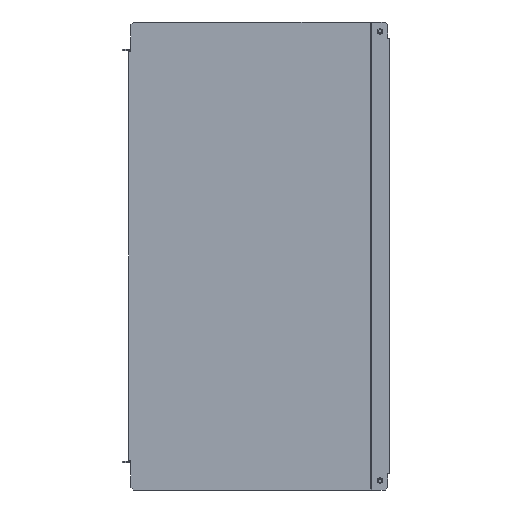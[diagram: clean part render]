
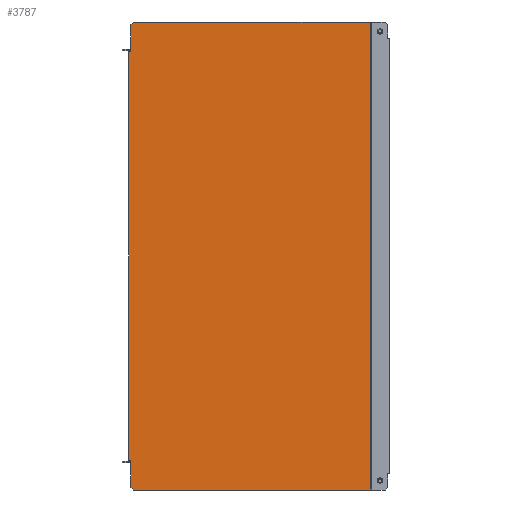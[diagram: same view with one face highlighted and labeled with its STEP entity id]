
A CAD part, front view. The second image highlights one B-rep face of the part: STEP entity #3787.
In plain terms, the highlighted planar face has unit normal (0, -1, 0).
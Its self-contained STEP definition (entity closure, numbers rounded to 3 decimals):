
#19 = ORIENTED_EDGE ( 'NONE', *, *, #1686, .F. ) ;
#52 = CARTESIAN_POINT ( 'NONE',  ( -285.5, 1.5, -285.5 ) ) ;
#92 = ORIENTED_EDGE ( 'NONE', *, *, #3213, .T. ) ;
#95 = EDGE_CURVE ( 'NONE', #1338, #1545, #3049, .T. ) ;
#96 = EDGE_CURVE ( 'NONE', #3440, #1887, #4071, .T. ) ;
#162 = DIRECTION ( 'NONE',  ( 1., 0., 0. ) ) ;
#188 = LINE ( 'NONE', #2399, #850 ) ;
#220 = EDGE_CURVE ( 'NONE', #2814, #3364, #1924, .T. ) ;
#238 = VECTOR ( 'NONE', #1070, 1000. ) ;
#262 = CARTESIAN_POINT ( 'NONE',  ( -20.511, 1.5, -273.5 ) ) ;
#276 = ORIENTED_EDGE ( 'NONE', *, *, #955, .T. ) ;
#278 = VECTOR ( 'NONE', #1701, 1000. ) ;
#300 = FACE_OUTER_BOUND ( 'NONE', #1011, .T. ) ;
#392 = CARTESIAN_POINT ( 'NONE',  ( -285.5, 1.5, 285.5 ) ) ;
#505 = LINE ( 'NONE', #1813, #3216 ) ;
#537 = PLANE ( 'NONE',  #1853 ) ;
#538 = EDGE_CURVE ( 'NONE', #3051, #1645, #2217, .T. ) ;
#603 = LINE ( 'NONE', #1221, #3029 ) ;
#636 = VERTEX_POINT ( 'NONE', #262 ) ;
#699 = ORIENTED_EDGE ( 'NONE', *, *, #2004, .T. ) ;
#726 = VERTEX_POINT ( 'NONE', #1358 ) ;
#745 = DIRECTION ( 'NONE',  ( 1., 0., 0. ) ) ;
#750 = VERTEX_POINT ( 'NONE', #2952 ) ;
#850 = VECTOR ( 'NONE', #3697, 1000. ) ;
#872 = CARTESIAN_POINT ( 'NONE',  ( -297.5, 1.5, -273.5 ) ) ;
#955 = EDGE_CURVE ( 'NONE', #636, #1887, #603, .T. ) ;
#1011 = EDGE_LOOP ( 'NONE', ( #1136, #92, #276, #3932, #2759, #1282, #2256, #2788, #1857, #3499, #19, #699, #1595, #1795 ) ) ;
#1070 = DIRECTION ( 'NONE',  ( 1., 0., 0. ) ) ;
#1122 = DIRECTION ( 'NONE',  ( 1., 0., 0. ) ) ;
#1132 = CARTESIAN_POINT ( 'NONE',  ( -297.5, 1.5, 273.5 ) ) ;
#1136 = ORIENTED_EDGE ( 'NONE', *, *, #95, .T. ) ;
#1171 = VECTOR ( 'NONE', #3128, 1000. ) ;
#1221 = CARTESIAN_POINT ( 'NONE',  ( -20.511, 1.5, 0. ) ) ;
#1233 = VECTOR ( 'NONE', #1122, 1000. ) ;
#1259 = CARTESIAN_POINT ( 'NONE',  ( -300.5, 1.5, 273.5 ) ) ;
#1282 = ORIENTED_EDGE ( 'NONE', *, *, #1926, .T. ) ;
#1296 = EDGE_CURVE ( 'NONE', #3440, #3972, #188, .T. ) ;
#1338 = VERTEX_POINT ( 'NONE', #872 ) ;
#1356 = DIRECTION ( 'NONE',  ( 0.707, 0., -0.707 ) ) ;
#1358 = CARTESIAN_POINT ( 'NONE',  ( -300.5, 1.5, 239. ) ) ;
#1414 = CARTESIAN_POINT ( 'NONE',  ( -303.3, 1.5, 239. ) ) ;
#1483 = CARTESIAN_POINT ( 'NONE',  ( -300.5, 1.5, -273.5 ) ) ;
#1543 = VECTOR ( 'NONE', #3027, 1000. ) ;
#1545 = VERTEX_POINT ( 'NONE', #3262 ) ;
#1549 = CARTESIAN_POINT ( 'NONE',  ( 0., 1.5, 0. ) ) ;
#1595 = ORIENTED_EDGE ( 'NONE', *, *, #220, .T. ) ;
#1645 = VERTEX_POINT ( 'NONE', #1414 ) ;
#1650 = VECTOR ( 'NONE', #1356, 1000. ) ;
#1686 = EDGE_CURVE ( 'NONE', #3596, #1762, #505, .T. ) ;
#1701 = DIRECTION ( 'NONE',  ( -0.707, 0., -0.707 ) ) ;
#1751 = LINE ( 'NONE', #3769, #3078 ) ;
#1762 = VERTEX_POINT ( 'NONE', #2498 ) ;
#1795 = ORIENTED_EDGE ( 'NONE', *, *, #2285, .T. ) ;
#1813 = CARTESIAN_POINT ( 'NONE',  ( 0., 1.5, -239. ) ) ;
#1853 = AXIS2_PLACEMENT_3D ( 'NONE', #1549, #2791, #2170 ) ;
#1857 = ORIENTED_EDGE ( 'NONE', *, *, #538, .T. ) ;
#1874 = CARTESIAN_POINT ( 'NONE',  ( -300.8, 1.5, 239. ) ) ;
#1887 = VERTEX_POINT ( 'NONE', #3599 ) ;
#1907 = CARTESIAN_POINT ( 'NONE',  ( -300.5, 1.5, 273.5 ) ) ;
#1924 = LINE ( 'NONE', #1259, #3653 ) ;
#1926 = EDGE_CURVE ( 'NONE', #3972, #750, #2346, .T. ) ;
#2004 = EDGE_CURVE ( 'NONE', #3596, #2814, #2684, .T. ) ;
#2098 = LINE ( 'NONE', #2750, #2804 ) ;
#2170 = DIRECTION ( 'NONE',  ( -1., 0., 0. ) ) ;
#2203 = LINE ( 'NONE', #2850, #1171 ) ;
#2217 = LINE ( 'NONE', #1874, #3726 ) ;
#2246 = DIRECTION ( 'NONE',  ( 0., 0., -1. ) ) ;
#2256 = ORIENTED_EDGE ( 'NONE', *, *, #3819, .T. ) ;
#2257 = DIRECTION ( 'NONE',  ( -1., 0., 0. ) ) ;
#2285 = EDGE_CURVE ( 'NONE', #3364, #1338, #2637, .T. ) ;
#2346 = LINE ( 'NONE', #392, #278 ) ;
#2399 = CARTESIAN_POINT ( 'NONE',  ( 0., 1.5, 273.5 ) ) ;
#2411 = CARTESIAN_POINT ( 'NONE',  ( -300.8, 1.5, -239. ) ) ;
#2443 = CARTESIAN_POINT ( 'NONE',  ( 0., 1.5, 273.5 ) ) ;
#2498 = CARTESIAN_POINT ( 'NONE',  ( -303.3, 1.5, -239. ) ) ;
#2525 = DIRECTION ( 'NONE',  ( 0., 0., -1. ) ) ;
#2614 = CARTESIAN_POINT ( 'NONE',  ( -300.8, 1.5, -239. ) ) ;
#2637 = LINE ( 'NONE', #52, #1650 ) ;
#2684 = LINE ( 'NONE', #2411, #1233 ) ;
#2750 = CARTESIAN_POINT ( 'NONE',  ( -300.8, 1.5, 239. ) ) ;
#2759 = ORIENTED_EDGE ( 'NONE', *, *, #1296, .T. ) ;
#2788 = ORIENTED_EDGE ( 'NONE', *, *, #4078, .F. ) ;
#2791 = DIRECTION ( 'NONE',  ( 0., -1., 0. ) ) ;
#2804 = VECTOR ( 'NONE', #745, 1000. ) ;
#2814 = VERTEX_POINT ( 'NONE', #3390 ) ;
#2837 = LINE ( 'NONE', #1907, #3215 ) ;
#2850 = CARTESIAN_POINT ( 'NONE',  ( -303.3, 1.5, 0. ) ) ;
#2952 = CARTESIAN_POINT ( 'NONE',  ( -300.5, 1.5, 270.5 ) ) ;
#3027 = DIRECTION ( 'NONE',  ( 1., 0., 0. ) ) ;
#3029 = VECTOR ( 'NONE', #4180, 1000. ) ;
#3049 = LINE ( 'NONE', #1483, #1543 ) ;
#3051 = VERTEX_POINT ( 'NONE', #4211 ) ;
#3078 = VECTOR ( 'NONE', #162, 1000. ) ;
#3105 = DIRECTION ( 'NONE',  ( -1., 0., 0. ) ) ;
#3128 = DIRECTION ( 'NONE',  ( 0., 0., 1. ) ) ;
#3213 = EDGE_CURVE ( 'NONE', #1545, #636, #1751, .T. ) ;
#3215 = VECTOR ( 'NONE', #2525, 1000. ) ;
#3216 = VECTOR ( 'NONE', #3105, 1000. ) ;
#3262 = CARTESIAN_POINT ( 'NONE',  ( -20.925, 1.5, -273.5 ) ) ;
#3364 = VERTEX_POINT ( 'NONE', #4189 ) ;
#3390 = CARTESIAN_POINT ( 'NONE',  ( -300.5, 1.5, -239. ) ) ;
#3440 = VERTEX_POINT ( 'NONE', #3875 ) ;
#3499 = ORIENTED_EDGE ( 'NONE', *, *, #4128, .F. ) ;
#3596 = VERTEX_POINT ( 'NONE', #2614 ) ;
#3599 = CARTESIAN_POINT ( 'NONE',  ( -20.511, 1.5, 273.5 ) ) ;
#3653 = VECTOR ( 'NONE', #2246, 1000. ) ;
#3697 = DIRECTION ( 'NONE',  ( -1., 0., 0. ) ) ;
#3726 = VECTOR ( 'NONE', #2257, 1000. ) ;
#3769 = CARTESIAN_POINT ( 'NONE',  ( -20.925, 1.5, -273.5 ) ) ;
#3787 = ADVANCED_FACE ( 'NONE', ( #300 ), #537, .T. ) ;
#3819 = EDGE_CURVE ( 'NONE', #750, #726, #2837, .T. ) ;
#3875 = CARTESIAN_POINT ( 'NONE',  ( -20.925, 1.5, 273.5 ) ) ;
#3932 = ORIENTED_EDGE ( 'NONE', *, *, #96, .F. ) ;
#3972 = VERTEX_POINT ( 'NONE', #1132 ) ;
#4071 = LINE ( 'NONE', #2443, #238 ) ;
#4078 = EDGE_CURVE ( 'NONE', #3051, #726, #2098, .T. ) ;
#4128 = EDGE_CURVE ( 'NONE', #1762, #1645, #2203, .T. ) ;
#4180 = DIRECTION ( 'NONE',  ( 0., 0., 1. ) ) ;
#4189 = CARTESIAN_POINT ( 'NONE',  ( -300.5, 1.5, -270.5 ) ) ;
#4211 = CARTESIAN_POINT ( 'NONE',  ( -300.8, 1.5, 239. ) ) ;
